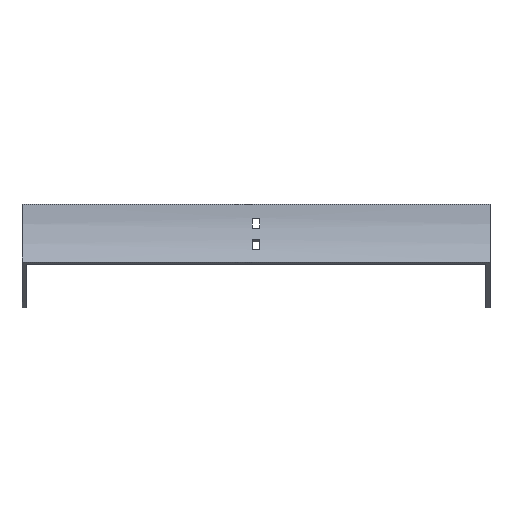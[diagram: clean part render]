
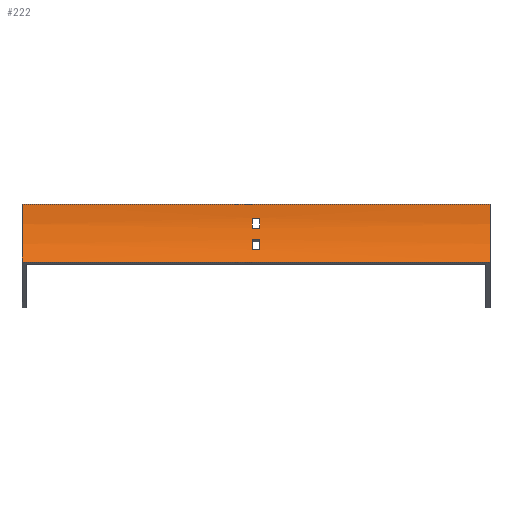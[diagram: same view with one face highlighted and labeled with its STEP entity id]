
A CAD part, front view. The second image highlights one B-rep face of the part: STEP entity #222.
In plain terms, the highlighted cylindrical face has radius 100 mm (diameter 200 mm), a partial arc.
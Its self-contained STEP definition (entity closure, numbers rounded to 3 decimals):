
#1 = VECTOR ( 'NONE', #1272, 1000. ) ;
#13 = VERTEX_POINT ( 'NONE', #379 ) ;
#38 = CARTESIAN_POINT ( 'NONE',  ( 3.25, -0.723, -12. ) ) ;
#41 = CARTESIAN_POINT ( 'NONE',  ( 3.25, -4.829, -30.699 ) ) ;
#45 = CARTESIAN_POINT ( 'NONE',  ( 202., -2.23, -21. ) ) ;
#48 = VERTEX_POINT ( 'NONE', #389 ) ;
#106 = DIRECTION ( 'NONE',  ( -1., 0., 0. ) ) ;
#120 = ORIENTED_EDGE ( 'NONE', *, *, #1132, .T. ) ;
#127 = CIRCLE ( 'NONE', #663, 100. ) ;
#141 = CYLINDRICAL_SURFACE ( 'NONE', #1120, 100. ) ;
#150 = EDGE_CURVE ( 'NONE', #548, #1075, #700, .T. ) ;
#167 = EDGE_CURVE ( 'NONE', #620, #524, #691, .T. ) ;
#179 = ORIENTED_EDGE ( 'NONE', *, *, #310, .F. ) ;
#183 = CARTESIAN_POINT ( 'NONE',  ( -3.25, -8.023, -39.246 ) ) ;
#189 = CIRCLE ( 'NONE', #468, 100. ) ;
#200 = LINE ( 'NONE', #45, #927 ) ;
#201 = VERTEX_POINT ( 'NONE', #436 ) ;
#222 = ADVANCED_FACE ( 'NONE', ( #421, #946, #797 ), #141, .F. ) ;
#253 = ORIENTED_EDGE ( 'NONE', *, *, #706, .F. ) ;
#280 = DIRECTION ( 'NONE',  ( 1., 0., 0. ) ) ;
#310 = EDGE_CURVE ( 'NONE', #1396, #1327, #488, .T. ) ;
#312 = ORIENTED_EDGE ( 'NONE', *, *, #167, .T. ) ;
#321 = ORIENTED_EDGE ( 'NONE', *, *, #1255, .F. ) ;
#330 = AXIS2_PLACEMENT_3D ( 'NONE', #867, #750, #344 ) ;
#333 = ORIENTED_EDGE ( 'NONE', *, *, #912, .F. ) ;
#344 = DIRECTION ( 'NONE',  ( 0., 0., -1. ) ) ;
#376 = LINE ( 'NONE', #1020, #665 ) ;
#379 = CARTESIAN_POINT ( 'NONE',  ( 3.25, -2.23, -21. ) ) ;
#386 = CARTESIAN_POINT ( 'NONE',  ( -3.25, -100., 0. ) ) ;
#389 = CARTESIAN_POINT ( 'NONE',  ( -202., -13.397, -50. ) ) ;
#390 = ORIENTED_EDGE ( 'NONE', *, *, #150, .T. ) ;
#421 = FACE_OUTER_BOUND ( 'NONE', #1599, .T. ) ;
#429 = CARTESIAN_POINT ( 'NONE',  ( 202., 0., 0. ) ) ;
#436 = CARTESIAN_POINT ( 'NONE',  ( 202., -13.397, -50. ) ) ;
#460 = VECTOR ( 'NONE', #820, 1000. ) ;
#468 = AXIS2_PLACEMENT_3D ( 'NONE', #1289, #106, #1672 ) ;
#476 = DIRECTION ( 'NONE',  ( 1., 0., 0. ) ) ;
#488 = CIRCLE ( 'NONE', #1554, 100. ) ;
#524 = VERTEX_POINT ( 'NONE', #38 ) ;
#527 = ORIENTED_EDGE ( 'NONE', *, *, #777, .F. ) ;
#548 = VERTEX_POINT ( 'NONE', #429 ) ;
#556 = EDGE_CURVE ( 'NONE', #13, #1389, #200, .T. ) ;
#559 = DIRECTION ( 'NONE',  ( 0., 0., 1. ) ) ;
#573 = CARTESIAN_POINT ( 'NONE',  ( 202., -0.723, -12. ) ) ;
#582 = CARTESIAN_POINT ( 'NONE',  ( -3.25, -100., 0. ) ) ;
#595 = DIRECTION ( 'NONE',  ( 1., 0., 0. ) ) ;
#614 = LINE ( 'NONE', #1540, #1 ) ;
#620 = VERTEX_POINT ( 'NONE', #1110 ) ;
#632 = CARTESIAN_POINT ( 'NONE',  ( -3.25, -4.829, -30.699 ) ) ;
#656 = VECTOR ( 'NONE', #280, 1000. ) ;
#661 = ORIENTED_EDGE ( 'NONE', *, *, #556, .T. ) ;
#663 = AXIS2_PLACEMENT_3D ( 'NONE', #386, #956, #711 ) ;
#665 = VECTOR ( 'NONE', #1590, 1000. ) ;
#691 = LINE ( 'NONE', #573, #656 ) ;
#700 = LINE ( 'NONE', #953, #460 ) ;
#706 = EDGE_CURVE ( 'NONE', #548, #201, #189, .T. ) ;
#711 = DIRECTION ( 'NONE',  ( 0., 0., -1. ) ) ;
#716 = ORIENTED_EDGE ( 'NONE', *, *, #1358, .T. ) ;
#750 = DIRECTION ( 'NONE',  ( -1., 0., 0. ) ) ;
#755 = CARTESIAN_POINT ( 'NONE',  ( 3.25, -8.023, -39.246 ) ) ;
#777 = EDGE_CURVE ( 'NONE', #942, #1396, #1032, .T. ) ;
#797 = FACE_BOUND ( 'NONE', #1624, .T. ) ;
#808 = DIRECTION ( 'NONE',  ( -1., 0., 0. ) ) ;
#813 = ORIENTED_EDGE ( 'NONE', *, *, #1114, .F. ) ;
#820 = DIRECTION ( 'NONE',  ( -1., 0., 0. ) ) ;
#836 = ORIENTED_EDGE ( 'NONE', *, *, #1690, .T. ) ;
#843 = CARTESIAN_POINT ( 'NONE',  ( -3.25, -2.23, -21. ) ) ;
#867 = CARTESIAN_POINT ( 'NONE',  ( 3.25, -100., 0. ) ) ;
#869 = AXIS2_PLACEMENT_3D ( 'NONE', #582, #595, #1623 ) ;
#898 = CARTESIAN_POINT ( 'NONE',  ( 202., -8.023, -39.246 ) ) ;
#912 = EDGE_CURVE ( 'NONE', #1439, #942, #127, .T. ) ;
#913 = CARTESIAN_POINT ( 'NONE',  ( 202., -100., 0. ) ) ;
#927 = VECTOR ( 'NONE', #988, 1000. ) ;
#942 = VERTEX_POINT ( 'NONE', #183 ) ;
#946 = FACE_BOUND ( 'NONE', #994, .T. ) ;
#953 = CARTESIAN_POINT ( 'NONE',  ( 202., 0., 0. ) ) ;
#956 = DIRECTION ( 'NONE',  ( -1., 0., 0. ) ) ;
#988 = DIRECTION ( 'NONE',  ( -1., 0., 0. ) ) ;
#994 = EDGE_LOOP ( 'NONE', ( #661, #716, #312, #120 ) ) ;
#1005 = VECTOR ( 'NONE', #1440, 1000. ) ;
#1020 = CARTESIAN_POINT ( 'NONE',  ( 202., -4.829, -30.699 ) ) ;
#1032 = LINE ( 'NONE', #898, #1005 ) ;
#1072 = CARTESIAN_POINT ( 'NONE',  ( -202., -100., 0. ) ) ;
#1075 = VERTEX_POINT ( 'NONE', #1400 ) ;
#1110 = CARTESIAN_POINT ( 'NONE',  ( -3.25, -0.723, -12. ) ) ;
#1114 = EDGE_CURVE ( 'NONE', #201, #48, #614, .T. ) ;
#1120 = AXIS2_PLACEMENT_3D ( 'NONE', #913, #808, #1470 ) ;
#1132 = EDGE_CURVE ( 'NONE', #524, #13, #1558, .T. ) ;
#1255 = EDGE_CURVE ( 'NONE', #1327, #1439, #376, .T. ) ;
#1272 = DIRECTION ( 'NONE',  ( -1., 0., 0. ) ) ;
#1289 = CARTESIAN_POINT ( 'NONE',  ( 202., -100., 0. ) ) ;
#1327 = VERTEX_POINT ( 'NONE', #41 ) ;
#1358 = EDGE_CURVE ( 'NONE', #1389, #620, #1641, .T. ) ;
#1389 = VERTEX_POINT ( 'NONE', #843 ) ;
#1396 = VERTEX_POINT ( 'NONE', #755 ) ;
#1397 = DIRECTION ( 'NONE',  ( 0., 0., 1. ) ) ;
#1400 = CARTESIAN_POINT ( 'NONE',  ( -202., 0., 0. ) ) ;
#1439 = VERTEX_POINT ( 'NONE', #632 ) ;
#1440 = DIRECTION ( 'NONE',  ( 1., 0., 0. ) ) ;
#1455 = CIRCLE ( 'NONE', #1535, 100. ) ;
#1470 = DIRECTION ( 'NONE',  ( 0., 0., 1. ) ) ;
#1524 = CARTESIAN_POINT ( 'NONE',  ( 3.25, -100., 0. ) ) ;
#1535 = AXIS2_PLACEMENT_3D ( 'NONE', #1072, #1596, #559 ) ;
#1540 = CARTESIAN_POINT ( 'NONE',  ( 202., -13.397, -50. ) ) ;
#1554 = AXIS2_PLACEMENT_3D ( 'NONE', #1524, #476, #1397 ) ;
#1558 = CIRCLE ( 'NONE', #330, 100. ) ;
#1590 = DIRECTION ( 'NONE',  ( -1., 0., 0. ) ) ;
#1596 = DIRECTION ( 'NONE',  ( -1., 0., 0. ) ) ;
#1599 = EDGE_LOOP ( 'NONE', ( #836, #813, #253, #390 ) ) ;
#1623 = DIRECTION ( 'NONE',  ( 0., 0., 1. ) ) ;
#1624 = EDGE_LOOP ( 'NONE', ( #333, #321, #179, #527 ) ) ;
#1641 = CIRCLE ( 'NONE', #869, 100. ) ;
#1672 = DIRECTION ( 'NONE',  ( 0., 0., 1. ) ) ;
#1690 = EDGE_CURVE ( 'NONE', #1075, #48, #1455, .T. ) ;
